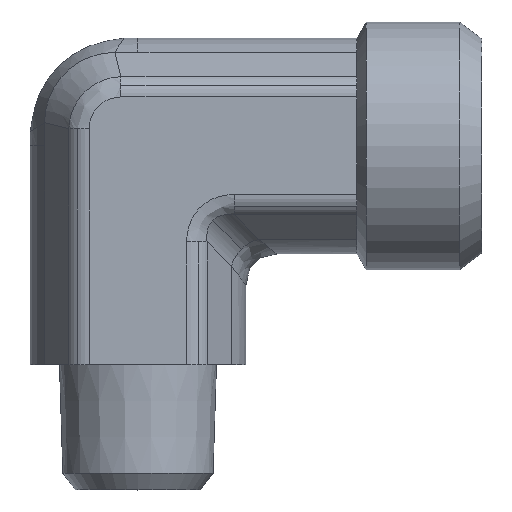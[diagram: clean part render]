
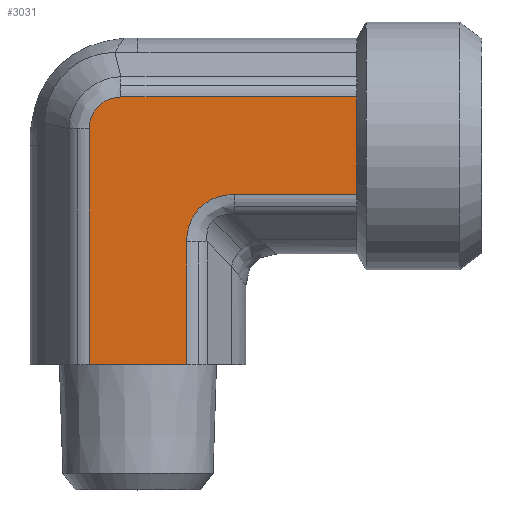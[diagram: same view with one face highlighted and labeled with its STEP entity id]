
A CAD part, top view. The second image highlights one B-rep face of the part: STEP entity #3031.
In plain terms, the highlighted planar face has unit normal (0, 0, 1) as drawn and (0, -1, 0) by its records, which use the part's own axes.
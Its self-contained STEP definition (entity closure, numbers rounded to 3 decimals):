
#361=CARTESIAN_POINT('',(1.649,-6.9,3.118));
#362=VERTEX_POINT('',#361);
#370=CARTESIAN_POINT('',(9.5,-6.9,3.118));
#371=VERTEX_POINT('',#370);
#372=CARTESIAN_POINT('',(1.649,-6.9,3.118));
#373=DIRECTION('',(1.0,0.0,0.0));
#374=VECTOR('',#373,7.851);
#375=LINE('',#372,#374);
#376=EDGE_CURVE('',#362,#371,#375,.T.);
#485=CARTESIAN_POINT('',(-7.618,-6.9,-1.091));
#486=VERTEX_POINT('',#485);
#494=CARTESIAN_POINT('',(-7.618,-6.9,14.0));
#495=VERTEX_POINT('',#494);
#496=CARTESIAN_POINT('',(-7.618,-6.9,-1.091));
#497=DIRECTION('',(0.0,0.0,1.0));
#498=VECTOR('',#497,15.091);
#499=LINE('',#496,#498);
#500=EDGE_CURVE('',#486,#495,#499,.T.);
#1988=CARTESIAN_POINT('',(-4.5,-6.9,14.0));
#1989=VERTEX_POINT('',#1988);
#2103=CARTESIAN_POINT('',(-4.5,-6.9,14.0));
#2104=DIRECTION('',(-1.0,0.0,0.0));
#2105=VECTOR('',#2104,3.118);
#2106=LINE('',#2103,#2105);
#2107=EDGE_CURVE('',#1989,#495,#2106,.T.);
#2180=CARTESIAN_POINT('',(-1.382,-6.9,14.0));
#2181=VERTEX_POINT('',#2180);
#2182=CARTESIAN_POINT('',(-1.382,-6.9,14.0));
#2183=DIRECTION('',(-1.0,0.0,0.0));
#2184=VECTOR('',#2183,3.118);
#2185=LINE('',#2182,#2184);
#2186=EDGE_CURVE('',#2181,#1989,#2185,.T.);
#2274=CARTESIAN_POINT('',(9.5,-6.9,-3.118));
#2275=VERTEX_POINT('',#2274);
#2276=CARTESIAN_POINT('',(9.5,-6.9,-3.118));
#2277=DIRECTION('',(0.0,0.0,1.0));
#2278=VECTOR('',#2277,6.235);
#2279=LINE('',#2276,#2278);
#2280=EDGE_CURVE('',#2275,#371,#2279,.T.);
#2716=CARTESIAN_POINT('',(-5.591,-6.9,-3.118));
#2717=VERTEX_POINT('',#2716);
#2725=CARTESIAN_POINT('',(-7.618,-6.9,-1.091));
#2726=CARTESIAN_POINT('',(-7.618,-6.9,-1.223));
#2727=CARTESIAN_POINT('',(-7.605,-6.9,-1.356));
#2728=CARTESIAN_POINT('',(-7.536,-6.9,-1.695));
#2729=CARTESIAN_POINT('',(-7.462,-6.9,-1.896));
#2730=CARTESIAN_POINT('',(-7.191,-6.9,-2.378));
#2731=CARTESIAN_POINT('',(-6.949,-6.9,-2.631));
#2732=CARTESIAN_POINT('',(-6.339,-6.9,-3.011));
#2733=CARTESIAN_POINT('',(-5.965,-6.9,-3.118));
#2734=CARTESIAN_POINT('',(-5.591,-6.9,-3.118));
#2735=B_SPLINE_CURVE_WITH_KNOTS('',3,(#2725,#2726,#2727,#2728,#2729,#2730,#2731,#2732,#2733,#2734),.UNSPECIFIED.,.F.,.U.,(4,2,2,2,4),(-3.166,-2.771,-2.137,-1.124,0.0),.UNSPECIFIED.);
#2736=EDGE_CURVE('',#2717,#486,#2735,.F.);
#2763=CARTESIAN_POINT('',(9.5,-6.9,-3.118));
#2764=DIRECTION('',(-1.0,0.0,0.0));
#2765=VECTOR('',#2764,15.091);
#2766=LINE('',#2763,#2765);
#2767=EDGE_CURVE('',#2275,#2717,#2766,.T.);
#2899=CARTESIAN_POINT('',(-1.382,-6.9,6.149));
#2900=VERTEX_POINT('',#2899);
#2901=CARTESIAN_POINT('',(-1.382,-6.9,14.0));
#2902=DIRECTION('',(0.0,0.0,-1.0));
#2903=VECTOR('',#2902,7.851);
#2904=LINE('',#2901,#2903);
#2905=EDGE_CURVE('',#2181,#2900,#2904,.T.);
#2988=CARTESIAN_POINT('',(2.659,-6.9,7.159));
#2989=DIRECTION('',(0.,-1.,0.));
#2990=DIRECTION('',(-0.707,0.,-0.707));
#2991=AXIS2_PLACEMENT_3D('',#2988,#2989,#2990);
#2992=ELLIPSE('',#2991,4.518,3.5);
#2993=EDGE_CURVE('',#2900,#362,#2992,.T.);
#3015=CARTESIAN_POINT('',(-4.5,-6.9,-3.175));
#3016=DIRECTION('',(0.0,-1.0,0.0));
#3017=DIRECTION('',(0.0,0.0,-1.0));
#3018=AXIS2_PLACEMENT_3D('',#3015,#3016,#3017);
#3019=PLANE('',#3018);
#3020=ORIENTED_EDGE('',*,*,#2767,.F.);
#3021=ORIENTED_EDGE('',*,*,#2280,.T.);
#3022=ORIENTED_EDGE('',*,*,#376,.F.);
#3023=ORIENTED_EDGE('',*,*,#2993,.F.);
#3024=ORIENTED_EDGE('',*,*,#2905,.F.);
#3025=ORIENTED_EDGE('',*,*,#2186,.T.);
#3026=ORIENTED_EDGE('',*,*,#2107,.T.);
#3027=ORIENTED_EDGE('',*,*,#500,.F.);
#3028=ORIENTED_EDGE('',*,*,#2736,.F.);
#3029=EDGE_LOOP('',(#3020,#3021,#3022,#3023,#3024,#3025,#3026,#3027,#3028));
#3030=FACE_OUTER_BOUND('',#3029,.T.);
#3031=ADVANCED_FACE('',(#3030),#3019,.T.);
